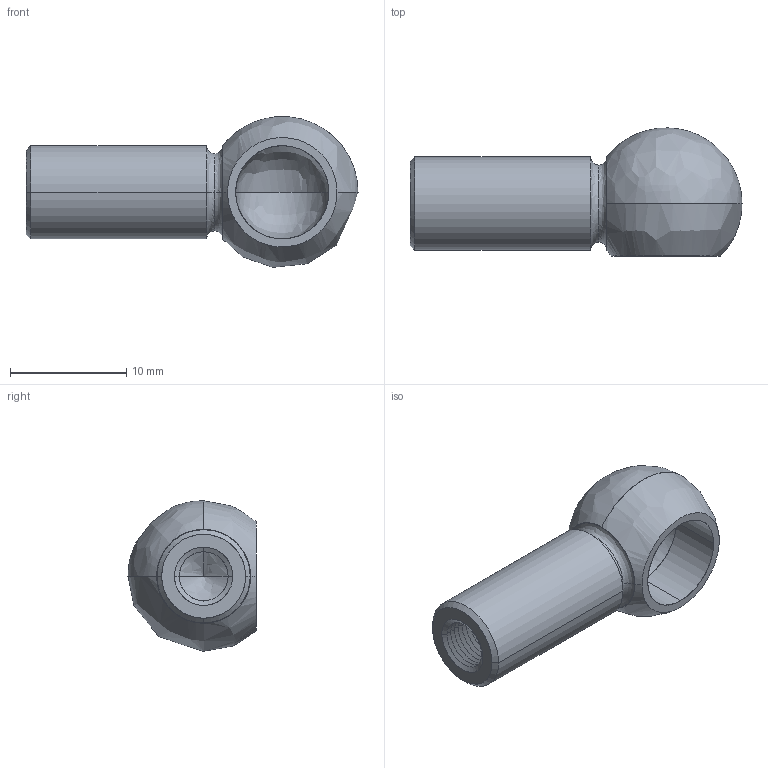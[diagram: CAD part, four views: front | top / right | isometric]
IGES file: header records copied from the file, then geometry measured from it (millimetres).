
Start section: SolidWorks IGES file using analytic representation for surfaces
Bounding box: 28.5 x 11 x 12.93 mm (x, y, z)
Surface area: 1463.2 mm2 (no closed solid volume)
Topology: 0 solids, 0 shells, 178 faces, 1079 edges, 1069 vertices
Faces by surface type: revolution 165, bspline 13
